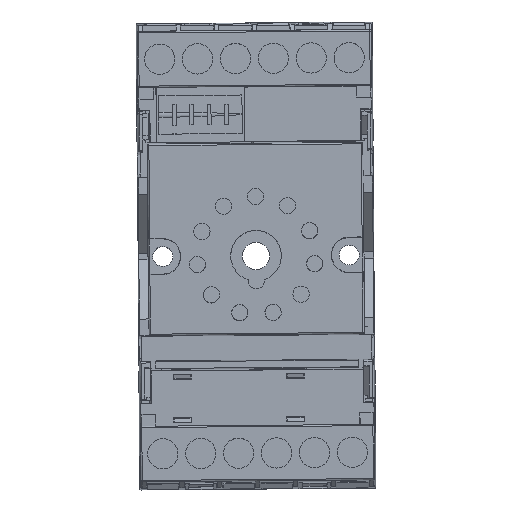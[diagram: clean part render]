
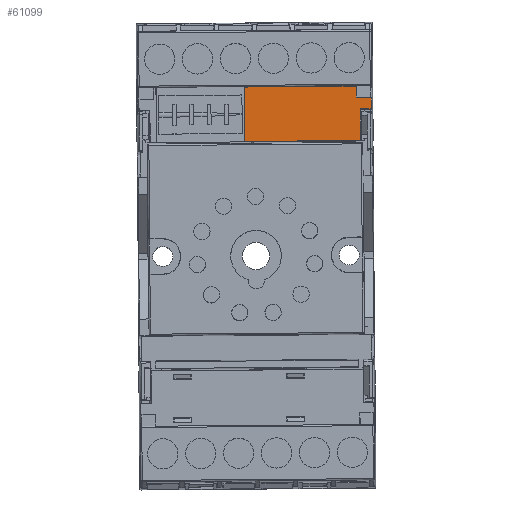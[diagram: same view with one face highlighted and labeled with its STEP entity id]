
A CAD part, top view. The second image highlights one B-rep face of the part: STEP entity #61099.
In plain terms, the highlighted planar face has unit normal (0, 0, 1).
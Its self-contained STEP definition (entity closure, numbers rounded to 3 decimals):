
#819 = DIRECTION ( 'NONE',  ( -1., -0.008, 0. ) ) ;
#1108 = CARTESIAN_POINT ( 'NONE',  ( 37.87, 65.03, 25.3 ) ) ;
#1825 = DIRECTION ( 'NONE',  ( 0.008, -1., 0. ) ) ;
#2606 = VECTOR ( 'NONE', #8669, 1000. ) ;
#3516 = ORIENTED_EDGE ( 'NONE', *, *, #36095, .F. ) ;
#4262 = EDGE_CURVE ( 'NONE', #45168, #5867, #60874, .T. ) ;
#5867 = VERTEX_POINT ( 'NONE', #47341 ) ;
#6100 = PLANE ( 'NONE',  #55048 ) ;
#6128 = VECTOR ( 'NONE', #819, 1000. ) ;
#6431 = EDGE_CURVE ( 'NONE', #34102, #55522, #17677, .T. ) ;
#6604 = VECTOR ( 'NONE', #36458, 1000. ) ;
#6913 = CARTESIAN_POINT ( 'NONE',  ( 36.077, 61.141, 25.3 ) ) ;
#7234 = CARTESIAN_POINT ( 'NONE',  ( 35.396, 64.935, 25.3 ) ) ;
#7765 = CIRCLE ( 'NONE', #61709, 0.15 ) ;
#7864 = VERTEX_POINT ( 'NONE', #49474 ) ;
#7991 = EDGE_CURVE ( 'NONE', #10225, #36439, #46757, .T. ) ;
#8669 = DIRECTION ( 'NONE',  ( -0.008, 1., 0. ) ) ;
#8703 = DIRECTION ( 'NONE',  ( 0.008, -1., 0. ) ) ;
#10225 = VERTEX_POINT ( 'NONE', #21240 ) ;
#10775 = CARTESIAN_POINT ( 'NONE',  ( 35.486, 63.036, 25.3 ) ) ;
#11137 = ORIENTED_EDGE ( 'NONE', *, *, #38787, .T. ) ;
#11500 = DIRECTION ( 'NONE',  ( 0., 0., 1. ) ) ;
#12477 = CARTESIAN_POINT ( 'NONE',  ( 17.516, 56.043, 25.3 ) ) ;
#12659 = ORIENTED_EDGE ( 'NONE', *, *, #32312, .T. ) ;
#16912 = CARTESIAN_POINT ( 'NONE',  ( 36.077, 61.141, 25.3 ) ) ;
#17413 = VECTOR ( 'NONE', #55828, 1000. ) ;
#17627 = VERTEX_POINT ( 'NONE', #17892 ) ;
#17677 = LINE ( 'NONE', #27697, #24310 ) ;
#17892 = CARTESIAN_POINT ( 'NONE',  ( 35.561, 63.037, 25.3 ) ) ;
#17996 = CARTESIAN_POINT ( 'NONE',  ( 37.871, 64.955, 25.3 ) ) ;
#18567 = EDGE_CURVE ( 'NONE', #19069, #34102, #25528, .T. ) ;
#18944 = EDGE_CURVE ( 'NONE', #7864, #10225, #29690, .T. ) ;
#19069 = VERTEX_POINT ( 'NONE', #12477 ) ;
#19320 = EDGE_CURVE ( 'NONE', #5867, #19069, #51596, .T. ) ;
#20600 = CARTESIAN_POINT ( 'NONE',  ( 37.9, 61.305, 25.3 ) ) ;
#21240 = CARTESIAN_POINT ( 'NONE',  ( 37.825, 61.305, 25.3 ) ) ;
#22963 = CARTESIAN_POINT ( 'NONE',  ( 37.795, 65.03, 25.3 ) ) ;
#23934 = LINE ( 'NONE', #10775, #6128 ) ;
#23937 = VERTEX_POINT ( 'NONE', #43795 ) ;
#24310 = VECTOR ( 'NONE', #41440, 1000. ) ;
#25528 = LINE ( 'NONE', #58993, #40326 ) ;
#27697 = CARTESIAN_POINT ( 'NONE',  ( 36.046, 65.016, 25.3 ) ) ;
#29690 = LINE ( 'NONE', #20600, #34430 ) ;
#31851 = CARTESIAN_POINT ( 'NONE',  ( 36.225, 61.292, 25.3 ) ) ;
#32027 = ORIENTED_EDGE ( 'NONE', *, *, #18944, .T. ) ;
#32312 = EDGE_CURVE ( 'NONE', #23937, #45168, #61537, .T. ) ;
#32412 = CARTESIAN_POINT ( 'NONE',  ( 35.395, 65.01, 25.3 ) ) ;
#34102 = VERTEX_POINT ( 'NONE', #51770 ) ;
#34430 = VECTOR ( 'NONE', #39703, 1000. ) ;
#35235 = EDGE_CURVE ( 'NONE', #7864, #55522, #44015, .T. ) ;
#36095 = EDGE_CURVE ( 'NONE', #23937, #17627, #7765, .T. ) ;
#36439 = VERTEX_POINT ( 'NONE', #45232 ) ;
#36458 = DIRECTION ( 'NONE',  ( -1., -0.008, 0. ) ) ;
#37116 = ORIENTED_EDGE ( 'NONE', *, *, #4262, .T. ) ;
#37441 = ORIENTED_EDGE ( 'NONE', *, *, #35235, .F. ) ;
#37478 = CARTESIAN_POINT ( 'NONE',  ( 17.446, 64.868, 25.3 ) ) ;
#38047 = VECTOR ( 'NONE', #8703, 1000. ) ;
#38379 = EDGE_LOOP ( 'NONE', ( #59703, #50770, #49094, #37441, #32027, #41916, #11137, #3516, #12659, #37116 ) ) ;
#38787 = EDGE_CURVE ( 'NONE', #36439, #17627, #23934, .T. ) ;
#39703 = DIRECTION ( 'NONE',  ( 1., 0.008, 0. ) ) ;
#39827 = DIRECTION ( 'NONE',  ( 0.008, -1., 0. ) ) ;
#40277 = CARTESIAN_POINT ( 'NONE',  ( 35.56, 63.187, 25.3 ) ) ;
#40326 = VECTOR ( 'NONE', #49655, 1000. ) ;
#41440 = DIRECTION ( 'NONE',  ( -0.008, 1., 0. ) ) ;
#41916 = ORIENTED_EDGE ( 'NONE', *, *, #7991, .T. ) ;
#43795 = CARTESIAN_POINT ( 'NONE',  ( 35.41, 63.185, 25.3 ) ) ;
#44015 =( BOUNDED_CURVE ( )  B_SPLINE_CURVE ( 3, ( #31851, #44757, #45658, #6913 ),
 .UNSPECIFIED., .F., .T. ) 
 B_SPLINE_CURVE_WITH_KNOTS ( ( 4, 4 ),
 ( 1.571, 3.142 ),
 .UNSPECIFIED. ) 
 CURVE ( )  GEOMETRIC_REPRESENTATION_ITEM ( )  RATIONAL_B_SPLINE_CURVE ( ( 1., 0.805, 0.805, 1. ) ) 
 REPRESENTATION_ITEM ( '' )  );
#44757 = CARTESIAN_POINT ( 'NONE',  ( 36.138, 61.291, 25.3 ) ) ;
#45168 = VERTEX_POINT ( 'NONE', #7234 ) ;
#45232 = CARTESIAN_POINT ( 'NONE',  ( 37.811, 63.055, 25.3 ) ) ;
#45658 = CARTESIAN_POINT ( 'NONE',  ( 36.076, 61.229, 25.3 ) ) ;
#46757 = LINE ( 'NONE', #22963, #17413 ) ;
#47341 = CARTESIAN_POINT ( 'NONE',  ( 17.446, 64.793, 25.3 ) ) ;
#49094 = ORIENTED_EDGE ( 'NONE', *, *, #6431, .T. ) ;
#49251 = DIRECTION ( 'NONE',  ( 0., 0., -1. ) ) ;
#49474 = CARTESIAN_POINT ( 'NONE',  ( 36.225, 61.292, 25.3 ) ) ;
#49655 = DIRECTION ( 'NONE',  ( 1., 0.008, 0. ) ) ;
#50770 = ORIENTED_EDGE ( 'NONE', *, *, #18567, .T. ) ;
#51596 = LINE ( 'NONE', #37478, #38047 ) ;
#51770 = CARTESIAN_POINT ( 'NONE',  ( 36.116, 56.191, 25.3 ) ) ;
#55048 = AXIS2_PLACEMENT_3D ( 'NONE', #1108, #49251, #39827 ) ;
#55522 = VERTEX_POINT ( 'NONE', #16912 ) ;
#55828 = DIRECTION ( 'NONE',  ( -0.008, 1., 0. ) ) ;
#58004 = FACE_OUTER_BOUND ( 'NONE', #38379, .T. ) ;
#58993 = CARTESIAN_POINT ( 'NONE',  ( 36.19, 56.191, 25.3 ) ) ;
#59703 = ORIENTED_EDGE ( 'NONE', *, *, #19320, .T. ) ;
#60874 = LINE ( 'NONE', #17996, #6604 ) ;
#61099 = ADVANCED_FACE ( 'NONE', ( #58004 ), #6100, .F. ) ;
#61537 = LINE ( 'NONE', #32412, #2606 ) ;
#61709 = AXIS2_PLACEMENT_3D ( 'NONE', #40277, #11500, #1825 ) ;
